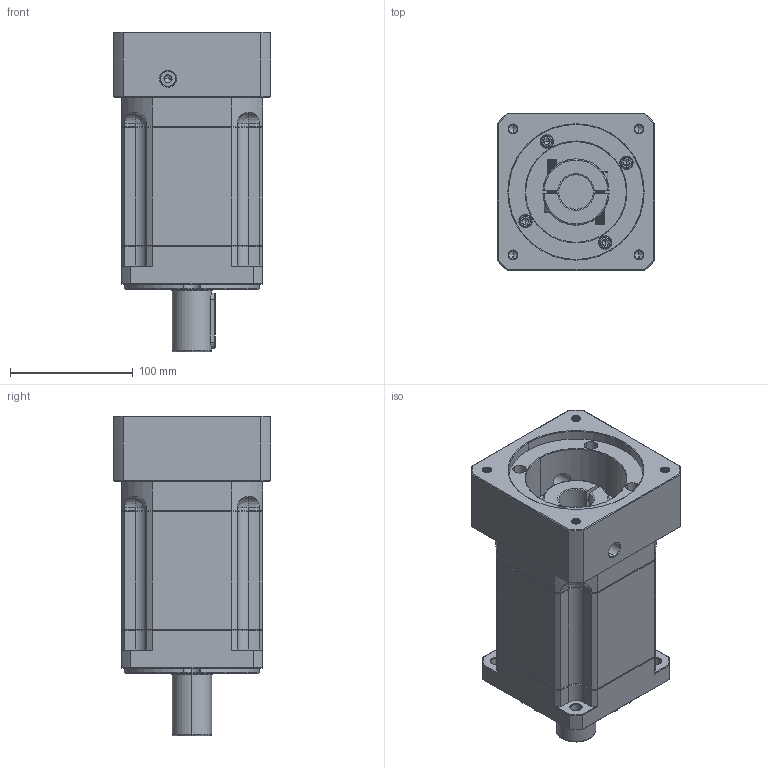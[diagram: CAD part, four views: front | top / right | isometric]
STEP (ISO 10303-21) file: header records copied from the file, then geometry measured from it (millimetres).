
FILE_DESCRIPTION (( 'STEP AP214' ), '1' );
FILE_NAME ('ZB115A-D32-L3-P2-28-110-145-M8.step', '2023-08-26T06:33:29', ( '' ), ( '' ), 'SwSTEP 2.0', 'SolidWorks 2016', '' );
FILE_SCHEMA (( 'AUTOMOTIVE_DESIGN' ));
Length unit declared in the file: millimetre
Products named in the file (1): ZB115A-D32-L3-P2-28-110-145-M8
Bounding box: 128 x 128 x 260.5 mm (x, y, z)
Volume: 2433513.3 mm3; surface area: 209374.3 mm2
Topology: 6 solids, 6 shells, 2391 faces, 6277 edges, 3985 vertices
Faces by surface type: plane 1143, cylinder 439, bspline 423, cone 366, torus 20
Entity records: 129086 total; most frequent: CARTESIAN_POINT 47450, ORIENTED_EDGE 12486, DIRECTION 9880, EDGE_CURVE 6243, VECTOR 3994, LINE 3994, VERTEX_POINT 3985, AXIS2_PLACEMENT_3D 2943
